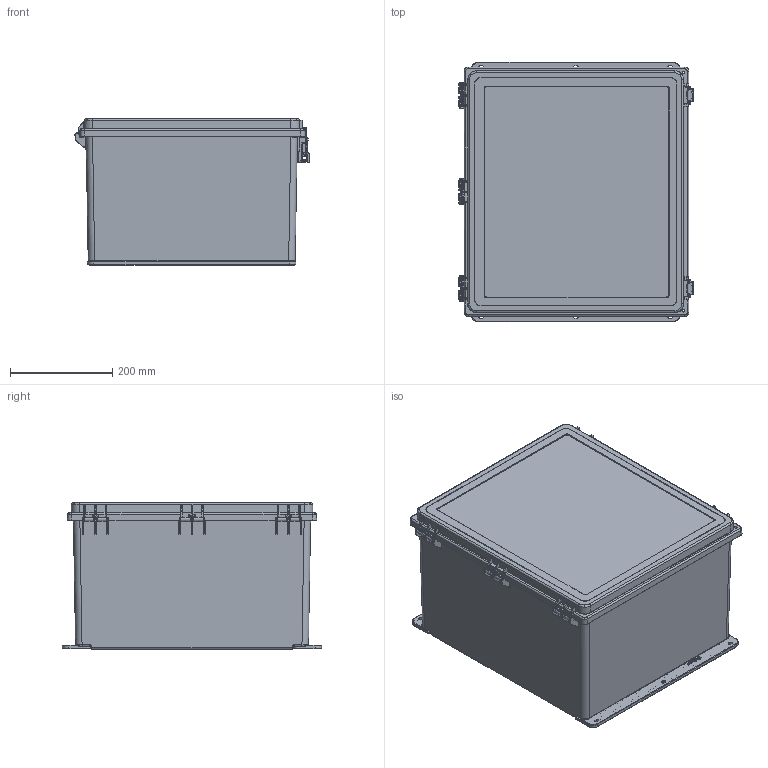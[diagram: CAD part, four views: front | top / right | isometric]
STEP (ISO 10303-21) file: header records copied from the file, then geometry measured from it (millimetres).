
FILE_DESCRIPTION (( 'STEP AP203' ), '1' );
FILE_NAME ('a181610phcw.STEP', '2019-07-12T19:44:12', ( '' ), ( '' ), 'SwSTEP 2.0', 'SolidWorks 2016', '' );
FILE_SCHEMA (( 'CONFIG_CONTROL_DESIGN' ));
Length unit declared in the file: inch
Products named in the file (10): 87934971_87934971; 87938571_87938571; 87925610_87925610; a181610phcw; 87925773_87925773; 87929602_87929602; 87952922; 87925639_87925639; 87934975_87934975; 87934973_87934973
Assembly tree (11 placements, depth 3):
  a181610phcw
    87925610_87925610
    87952922
      87925773_87925773
      87929602_87929602
    87925639_87925639  x2
    87938571_87938571  x2
      87934975_87934975
      87934973_87934973
      87934971_87934971
Bounding box: 458.28 x 507.24 x 286.22 mm (x, y, z)
Volume: 3918105.8 mm3; surface area: 2095674.3 mm2
Topology: 13 solids, 13 shells, 6401 faces, 16142 edges, 9385 vertices
Faces by surface type: cylinder 2157, plane 1883, bspline 1370, sphere 600, torus 292, cone 99
Entity records: 171674 total; most frequent: CARTESIAN_POINT 71325, ORIENTED_EDGE 22358, DIRECTION 18450, EDGE_CURVE 11179, VERTEX_POINT 6757, AXIS2_PLACEMENT_3D 6481, VECTOR 5488, LINE 5488
